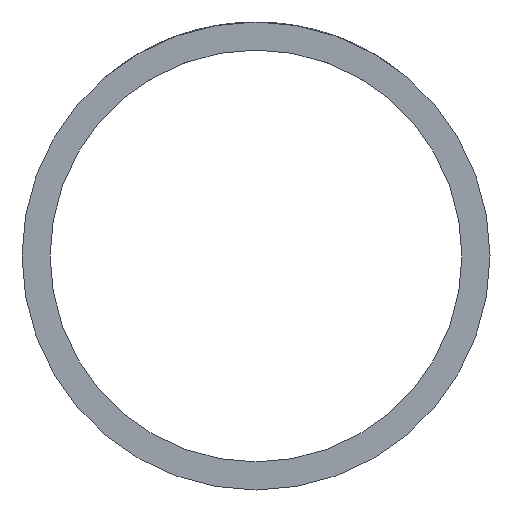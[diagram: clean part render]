
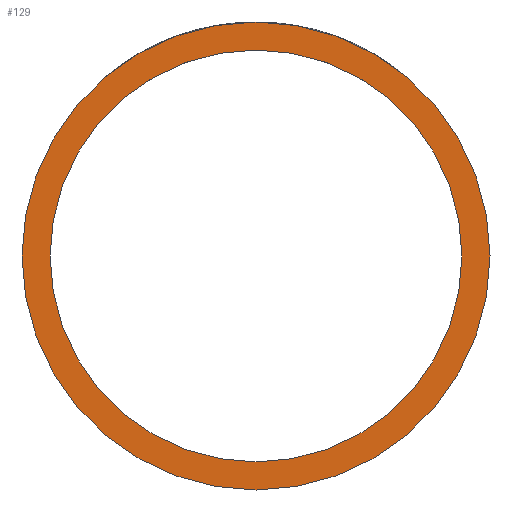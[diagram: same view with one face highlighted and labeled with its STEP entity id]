
A CAD part, front view. The second image highlights one B-rep face of the part: STEP entity #129.
In plain terms, the highlighted planar face has unit normal (0, -1, 0).
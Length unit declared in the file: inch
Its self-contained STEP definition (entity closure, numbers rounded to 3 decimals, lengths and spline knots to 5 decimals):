
#21 = FACE_OUTER_BOUND ( 'NONE', #736, .T. ) ;
#33 = CIRCLE ( 'NONE', #910, 0.88 ) ;
#42 = CIRCLE ( 'NONE', #908, 0.88 ) ;
#44 = FACE_BOUND ( 'NONE', #723, .T. ) ;
#80 = CIRCLE ( 'NONE', #912, 1. ) ;
#86 = CIRCLE ( 'NONE', #913, 1. ) ;
#129 = ADVANCED_FACE ( 'NONE', ( #21, #44 ), #1001, .F. ) ;
#154 = DIRECTION ( 'NONE',  ( 0., 0., 1. ) ) ;
#170 = CARTESIAN_POINT ( 'NONE',  ( 0., 0., 0. ) ) ;
#174 = DIRECTION ( 'NONE',  ( 0., 1., 0. ) ) ;
#464 = DIRECTION ( 'NONE',  ( 0., 1., 0. ) ) ;
#469 = CARTESIAN_POINT ( 'NONE',  ( 0., 0., 0. ) ) ;
#473 = CARTESIAN_POINT ( 'NONE',  ( 0., 0., 0. ) ) ;
#477 = DIRECTION ( 'NONE',  ( 0., 1., 0. ) ) ;
#495 = DIRECTION ( 'NONE',  ( 1., 0., 0. ) ) ;
#512 = DIRECTION ( 'NONE',  ( 1., 0., 0. ) ) ;
#574 = CARTESIAN_POINT ( 'NONE',  ( 0., 0., 0. ) ) ;
#580 = DIRECTION ( 'NONE',  ( 0., 1., 0. ) ) ;
#582 = DIRECTION ( 'NONE',  ( 0., 0., 1. ) ) ;
#723 = EDGE_LOOP ( 'NONE', ( #817, #827 ) ) ;
#736 = EDGE_LOOP ( 'NONE', ( #828, #832 ) ) ;
#757 = VERTEX_POINT ( 'NONE', #962 ) ;
#764 = VERTEX_POINT ( 'NONE', #977 ) ;
#782 = VERTEX_POINT ( 'NONE', #971 ) ;
#800 = VERTEX_POINT ( 'NONE', #968 ) ;
#817 = ORIENTED_EDGE ( 'NONE', *, *, #878, .T. ) ;
#827 = ORIENTED_EDGE ( 'NONE', *, *, #881, .T. ) ;
#828 = ORIENTED_EDGE ( 'NONE', *, *, #863, .F. ) ;
#832 = ORIENTED_EDGE ( 'NONE', *, *, #894, .F. ) ;
#863 = EDGE_CURVE ( 'NONE', #782, #800, #80, .T. ) ;
#878 = EDGE_CURVE ( 'NONE', #764, #757, #42, .T. ) ;
#881 = EDGE_CURVE ( 'NONE', #757, #764, #33, .T. ) ;
#894 = EDGE_CURVE ( 'NONE', #800, #782, #86, .T. ) ;
#908 = AXIS2_PLACEMENT_3D ( 'NONE', #469, #464, #512 ) ;
#910 = AXIS2_PLACEMENT_3D ( 'NONE', #473, #477, #495 ) ;
#912 = AXIS2_PLACEMENT_3D ( 'NONE', #574, #580, #582 ) ;
#913 = AXIS2_PLACEMENT_3D ( 'NONE', #170, #174, #154 ) ;
#920 = AXIS2_PLACEMENT_3D ( 'NONE', #984, #958, #986 ) ;
#958 = DIRECTION ( 'NONE',  ( 0., 1., 0. ) ) ;
#962 = CARTESIAN_POINT ( 'NONE',  ( 0., 0., 0.88 ) ) ;
#968 = CARTESIAN_POINT ( 'NONE',  ( 0., 0., 1. ) ) ;
#971 = CARTESIAN_POINT ( 'NONE',  ( 0., 0., -1. ) ) ;
#977 = CARTESIAN_POINT ( 'NONE',  ( 0., 0., -0.88 ) ) ;
#984 = CARTESIAN_POINT ( 'NONE',  ( 0., 0., 0. ) ) ;
#986 = DIRECTION ( 'NONE',  ( 0., 0., 1. ) ) ;
#1001 = PLANE ( 'NONE',  #920 ) ;
